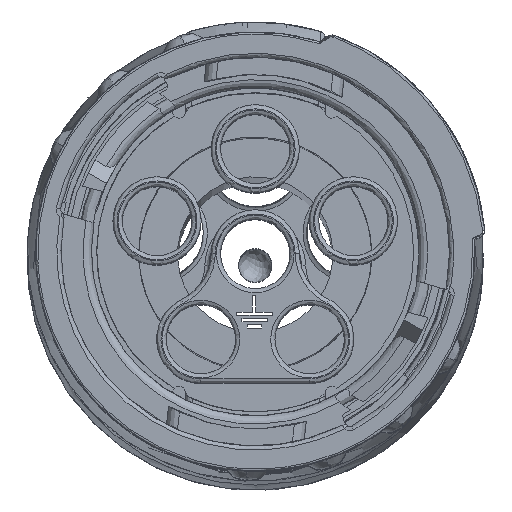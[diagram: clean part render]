
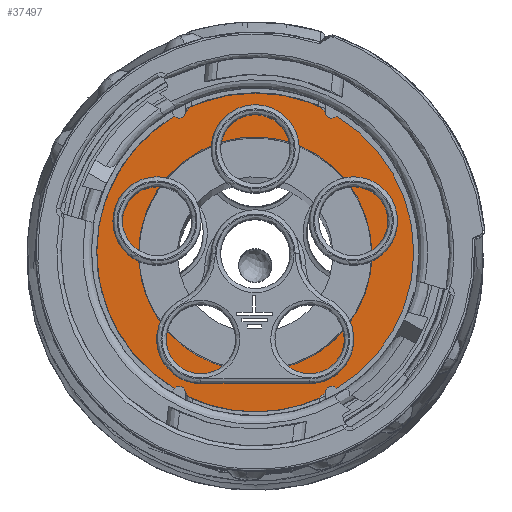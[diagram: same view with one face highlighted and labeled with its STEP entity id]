
A CAD part, top view. The second image highlights one B-rep face of the part: STEP entity #37497.
In plain terms, the highlighted planar face has unit normal (0, 0, -1).
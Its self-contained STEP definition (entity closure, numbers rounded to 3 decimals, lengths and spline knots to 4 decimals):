
#319 = CIRCLE ( 'NONE', #23347, 7.6918 ) ;
#2751 = DIRECTION ( 'NONE',  ( -1., 0., 0. ) ) ;
#2817 = CARTESIAN_POINT ( 'NONE',  ( -5.3127, -2.769, -45.7882 ) ) ;
#5945 = AXIS2_PLACEMENT_3D ( 'NONE', #51025, #7155, #2751 ) ;
#6945 = AXIS2_PLACEMENT_3D ( 'NONE', #37267, #18732, #37892 ) ;
#7155 = DIRECTION ( 'NONE',  ( 0., 0., -1. ) ) ;
#14061 = CARTESIAN_POINT ( 'NONE',  ( 2.379, -2.769, -45.7882 ) ) ;
#17244 = VERTEX_POINT ( 'NONE', #27273 ) ;
#18732 = DIRECTION ( 'NONE',  ( 0., 0., -1. ) ) ;
#22555 = VERTEX_POINT ( 'NONE', #2817 ) ;
#23347 = AXIS2_PLACEMENT_3D ( 'NONE', #14061, #52303, #36969 ) ;
#27273 = CARTESIAN_POINT ( 'NONE',  ( -3.171, -2.769, -45.7882 ) ) ;
#32096 = ORIENTED_EDGE ( 'NONE', *, *, #47799, .T. ) ;
#32860 = FACE_OUTER_BOUND ( 'NONE', #55811, .T. ) ;
#36969 = DIRECTION ( 'NONE',  ( -1., 0., 0. ) ) ;
#37267 = CARTESIAN_POINT ( 'NONE',  ( 2.379, -2.769, -45.7882 ) ) ;
#37497 = ADVANCED_FACE ( 'NONE', ( #32860, #61051 ), #51362, .T. ) ;
#37892 = DIRECTION ( 'NONE',  ( -1., 0., 0. ) ) ;
#47799 = EDGE_CURVE ( 'NONE', #22555, #22555, #319, .T. ) ;
#48920 = EDGE_LOOP ( 'NONE', ( #54393 ) ) ;
#51025 = CARTESIAN_POINT ( 'NONE',  ( 2.379, -2.769, -45.7882 ) ) ;
#51362 = PLANE ( 'NONE',  #6945 ) ;
#51997 = CIRCLE ( 'NONE', #5945, 5.55 ) ;
#52303 = DIRECTION ( 'NONE',  ( 0., 0., -1. ) ) ;
#54393 = ORIENTED_EDGE ( 'NONE', *, *, #55445, .F. ) ;
#55445 = EDGE_CURVE ( 'NONE', #17244, #17244, #51997, .T. ) ;
#55811 = EDGE_LOOP ( 'NONE', ( #32096 ) ) ;
#61051 = FACE_BOUND ( 'NONE', #48920, .T. ) ;
